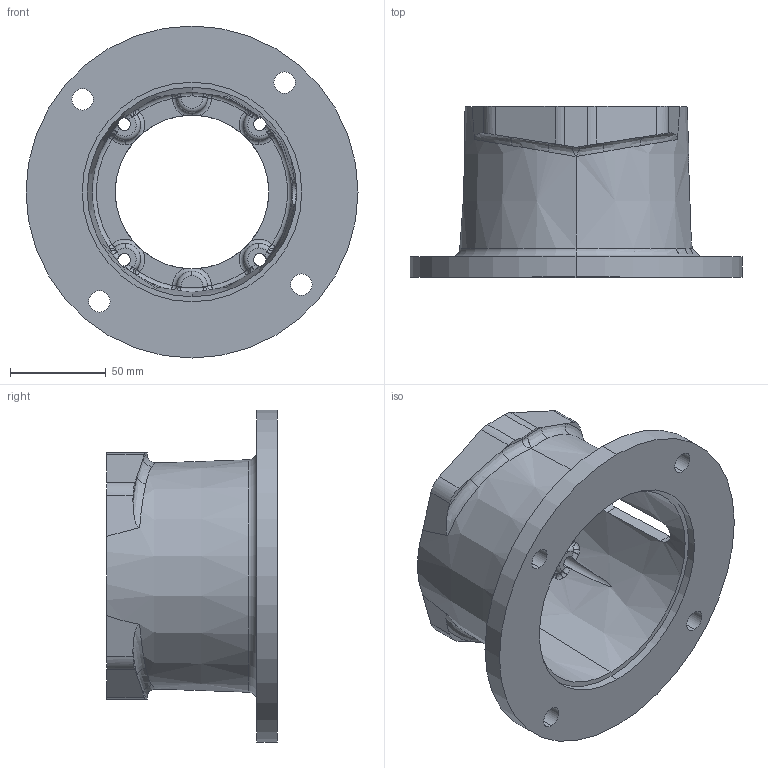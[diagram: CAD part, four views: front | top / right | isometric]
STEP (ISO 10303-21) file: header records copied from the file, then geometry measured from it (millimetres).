
FILE_DESCRIPTION (( 'STEP AP203' ), '1' );
FILE_NAME ('M0563580MS.STEP', '2015-01-19T15:34:43', ( '' ), ( '' ), 'SwSTEP 2.0', 'SolidWorks 2014', '' );
FILE_SCHEMA (( 'CONFIG_CONTROL_DESIGN' ));
Length unit declared in the file: inch
Products named in the file (1): M0563580MS
Bounding box: 172.97 x 88.9 x 172.97 mm (x, y, z)
Volume: 377939.4 mm3; surface area: 102171.6 mm2
Topology: 1 solids, 1 shells, 212 faces, 550 edges, 323 vertices
Faces by surface type: bspline 50, torus 46, cylinder 46, plane 36, sphere 24, cone 10
Entity records: 8792 total; most frequent: CARTESIAN_POINT 3859, ORIENTED_EDGE 1072, DIRECTION 1014, EDGE_CURVE 536, AXIS2_PLACEMENT_3D 461, VERTEX_POINT 323, CIRCLE 298, EDGE_LOOP 229
